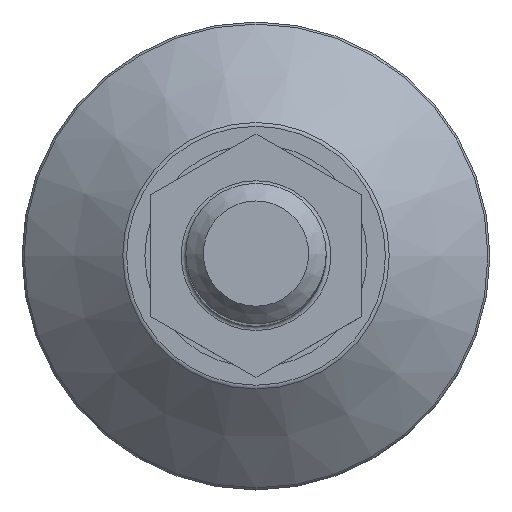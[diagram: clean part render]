
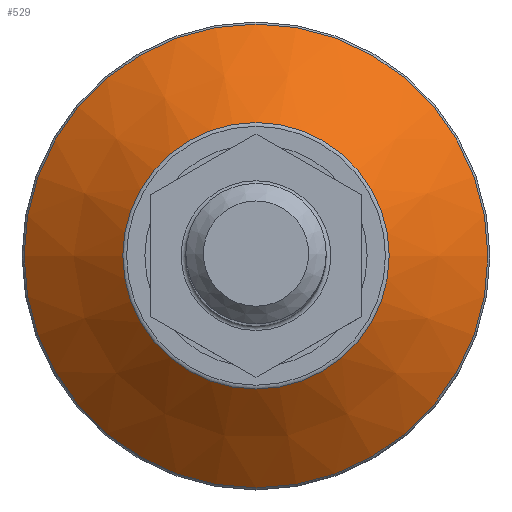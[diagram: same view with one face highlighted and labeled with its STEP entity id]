
A CAD part, top view. The second image highlights one B-rep face of the part: STEP entity #529.
In plain terms, the highlighted conical face has half-angle 49.399 degrees and reference radius 31.216 mm.
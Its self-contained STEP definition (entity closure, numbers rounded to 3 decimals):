
#66=CONICAL_SURFACE('',#583,31.216,49.399);
#86=FACE_BOUND('',#175,.T.);
#125=FACE_OUTER_BOUND('',#174,.T.);
#174=EDGE_LOOP('',(#407));
#175=EDGE_LOOP('',(#408));
#258=CIRCLE('',#581,22.781);
#260=CIRCLE('',#584,39.651);
#297=VERTEX_POINT('',#856);
#299=VERTEX_POINT('',#861);
#348=EDGE_CURVE('',#297,#297,#258,.T.);
#350=EDGE_CURVE('',#299,#299,#260,.T.);
#407=ORIENTED_EDGE('',*,*,#350,.T.);
#408=ORIENTED_EDGE('',*,*,#348,.F.);
#529=ADVANCED_FACE('',(#125,#86),#66,.T.);
#581=AXIS2_PLACEMENT_3D('',#857,#673,#674);
#583=AXIS2_PLACEMENT_3D('',#860,#677,#678);
#584=AXIS2_PLACEMENT_3D('',#862,#679,#680);
#673=DIRECTION('center_axis',(0.,0.,1.));
#674=DIRECTION('ref_axis',(1.,0.,0.));
#677=DIRECTION('center_axis',(0.,0.,-1.));
#678=DIRECTION('ref_axis',(1.,0.,0.));
#679=DIRECTION('center_axis',(0.,0.,1.));
#680=DIRECTION('ref_axis',(1.,0.,0.));
#856=CARTESIAN_POINT('',(-15.678,-6.427,12.259));
#857=CARTESIAN_POINT('Origin',(7.103,-6.427,12.259));
#860=CARTESIAN_POINT('Origin',(7.103,-6.427,5.029));
#861=CARTESIAN_POINT('',(-32.548,-6.427,-2.201));
#862=CARTESIAN_POINT('Origin',(7.103,-6.427,-2.201));
